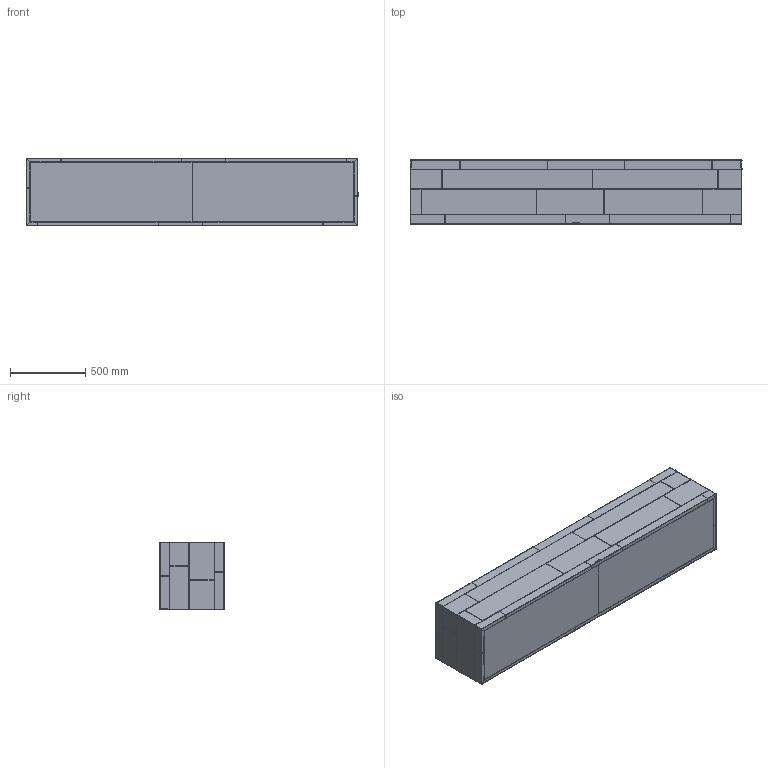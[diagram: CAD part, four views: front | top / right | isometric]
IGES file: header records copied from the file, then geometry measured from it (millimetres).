
Start section: SolidWorks IGES file using analytic representation for surfaces
Global section: file name: \\UTENTI\Dati Utenti\Tecnico\DC\2D - 3D per sito\3D\DeCastelli-3D-Celato wall-mounted Console.igs; native system: SolidWorks 2022; preprocessor: SolidWorks 2022; author: maria; date: 240712.143602; units: millimetre
Bounding box: 2200 x 428 x 450.5 mm (x, y, z)
Surface area: 9064723.2 mm2 (no closed solid volume)
Topology: 0 solids, 0 shells, 387 faces, 3796 edges, 3796 vertices
Faces by surface type: bspline 294, revolution 93
